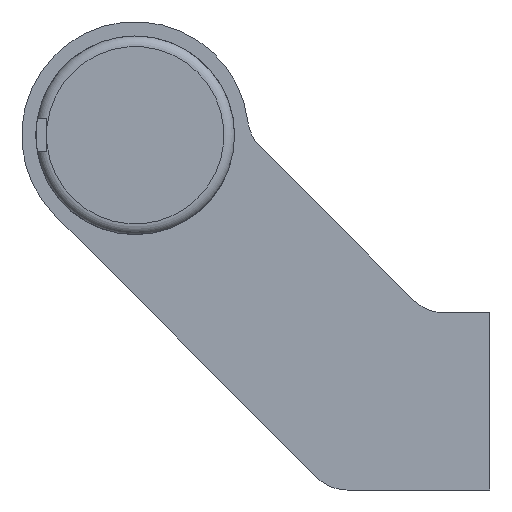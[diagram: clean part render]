
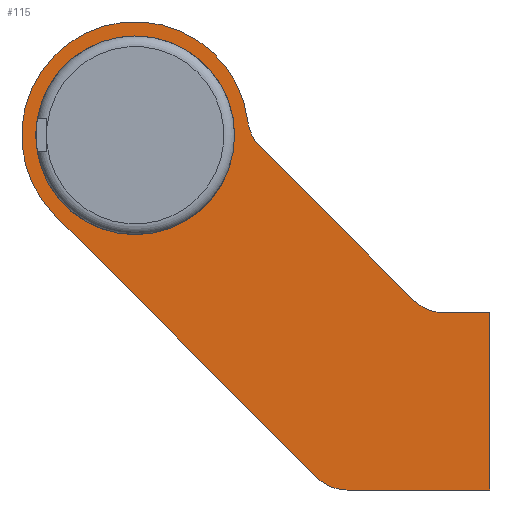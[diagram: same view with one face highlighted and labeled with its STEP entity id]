
A CAD part, left-side view. The second image highlights one B-rep face of the part: STEP entity #115.
In plain terms, the highlighted planar face has unit normal (-1, 0, 0).
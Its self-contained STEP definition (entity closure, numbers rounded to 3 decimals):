
#115 = ADVANCED_FACE( '', ( #215, #216 ), #217, .F. );
#215 = FACE_BOUND( '', #328, .T. );
#216 = FACE_OUTER_BOUND( '', #329, .T. );
#217 = PLANE( '', #330 );
#328 = EDGE_LOOP( '', ( #629 ) );
#329 = EDGE_LOOP( '', ( #630, #631, #632, #633, #634, #635, #636, #637, #638 ) );
#330 = AXIS2_PLACEMENT_3D( '', #639, #640, #641 );
#629 = ORIENTED_EDGE( '', *, *, #755, .T. );
#630 = ORIENTED_EDGE( '', *, *, #741, .F. );
#631 = ORIENTED_EDGE( '', *, *, #719, .F. );
#632 = ORIENTED_EDGE( '', *, *, #715, .F. );
#633 = ORIENTED_EDGE( '', *, *, #723, .F. );
#634 = ORIENTED_EDGE( '', *, *, #726, .F. );
#635 = ORIENTED_EDGE( '', *, *, #729, .T. );
#636 = ORIENTED_EDGE( '', *, *, #732, .F. );
#637 = ORIENTED_EDGE( '', *, *, #735, .T. );
#638 = ORIENTED_EDGE( '', *, *, #738, .F. );
#639 = CARTESIAN_POINT( '', ( -207., 50., 37.5 ) );
#640 = DIRECTION( '', ( 1., 0., 0. ) );
#641 = DIRECTION( '', ( 0., 0., -1. ) );
#715 = EDGE_CURVE( '', #840, #841, #842, .T. );
#719 = EDGE_CURVE( '', #841, #848, #849, .T. );
#723 = EDGE_CURVE( '', #855, #840, #856, .T. );
#726 = EDGE_CURVE( '', #860, #855, #861, .T. );
#729 = EDGE_CURVE( '', #860, #865, #866, .T. );
#732 = EDGE_CURVE( '', #870, #865, #871, .T. );
#735 = EDGE_CURVE( '', #870, #875, #876, .T. );
#738 = EDGE_CURVE( '', #880, #875, #881, .T. );
#741 = EDGE_CURVE( '', #848, #880, #885, .T. );
#755 = EDGE_CURVE( '', #907, #907, #908, .T. );
#840 = VERTEX_POINT( '', #1083 );
#841 = VERTEX_POINT( '', #1084 );
#842 = LINE( '', #1085, #1086 );
#848 = VERTEX_POINT( '', #1095 );
#849 = CIRCLE( '', #1096, 6. );
#855 = VERTEX_POINT( '', #1103 );
#856 = LINE( '', #1104, #1105 );
#860 = VERTEX_POINT( '', #1111 );
#861 = LINE( '', #1112, #1113 );
#865 = VERTEX_POINT( '', #1119 );
#866 = CIRCLE( '', #1120, 6. );
#870 = VERTEX_POINT( '', #1125 );
#871 = LINE( '', #1126, #1127 );
#875 = VERTEX_POINT( '', #1133 );
#876 = CIRCLE( '', #1134, 6. );
#880 = VERTEX_POINT( '', #1139 );
#881 = CIRCLE( '', #1140, 16. );
#885 = LINE( '', #1145, #1146 );
#907 = VERTEX_POINT( '', #1174 );
#908 = CIRCLE( '', #1175, 14. );
#1083 = CARTESIAN_POINT( '', ( -207., 0., -12.5 ) );
#1084 = CARTESIAN_POINT( '', ( -207., 20.142, -12.5 ) );
#1085 = CARTESIAN_POINT( '', ( -207., 0., -12.5 ) );
#1086 = VECTOR( '', #1265, 1000. );
#1095 = CARTESIAN_POINT( '', ( -207., 24.385, -10.743 ) );
#1096 = AXIS2_PLACEMENT_3D( '', #1269, #1270, #1271 );
#1103 = CARTESIAN_POINT( '', ( -207., 0., 12.5 ) );
#1104 = CARTESIAN_POINT( '', ( -207., 0., 12.5 ) );
#1105 = VECTOR( '', #1279, 1000. );
#1111 = CARTESIAN_POINT( '', ( -207., 6.515, 12.5 ) );
#1112 = CARTESIAN_POINT( '', ( -207., 6.515, 12.5 ) );
#1113 = VECTOR( '', #1282, 1000. );
#1119 = CARTESIAN_POINT( '', ( -207., 10.757, 14.257 ) );
#1120 = AXIS2_PLACEMENT_3D( '', #1285, #1286, #1287 );
#1125 = CARTESIAN_POINT( '', ( -207., 32.402, 35.902 ) );
#1126 = CARTESIAN_POINT( '', ( -207., 32.402, 35.902 ) );
#1127 = VECTOR( '', #1292, 1000. );
#1133 = CARTESIAN_POINT( '', ( -207., 34.116, 39.424 ) );
#1134 = AXIS2_PLACEMENT_3D( '', #1295, #1296, #1297 );
#1139 = CARTESIAN_POINT( '', ( -207., 61.314, 26.186 ) );
#1140 = AXIS2_PLACEMENT_3D( '', #1302, #1303, #1304 );
#1145 = CARTESIAN_POINT( '', ( -207., 24.385, -10.743 ) );
#1146 = VECTOR( '', #1309, 1000. );
#1174 = CARTESIAN_POINT( '', ( -207., 50., 23.5 ) );
#1175 = AXIS2_PLACEMENT_3D( '', #1337, #1338, #1339 );
#1265 = DIRECTION( '', ( 0., 1., 0. ) );
#1269 = CARTESIAN_POINT( '', ( -207., 20.142, -6.5 ) );
#1270 = DIRECTION( '', ( 1., 0., 0. ) );
#1271 = DIRECTION( '', ( 0., 0., -1. ) );
#1279 = DIRECTION( '', ( 0., 0., -1. ) );
#1282 = DIRECTION( '', ( 0., -1., 0. ) );
#1285 = CARTESIAN_POINT( '', ( -207., 6.515, 18.5 ) );
#1286 = DIRECTION( '', ( 1., 0., 0. ) );
#1287 = DIRECTION( '', ( 0., 0., -1. ) );
#1292 = DIRECTION( '', ( 0., -0.707, -0.707 ) );
#1295 = CARTESIAN_POINT( '', ( -207., 28.16, 40.145 ) );
#1296 = DIRECTION( '', ( 1., 0., 0. ) );
#1297 = DIRECTION( '', ( 0., 0., -1. ) );
#1302 = CARTESIAN_POINT( '', ( -207., 50., 37.5 ) );
#1303 = DIRECTION( '', ( 1., 0., 0. ) );
#1304 = DIRECTION( '', ( 0., 0., -1. ) );
#1309 = DIRECTION( '', ( 0., 0.707, 0.707 ) );
#1337 = CARTESIAN_POINT( '', ( -207., 50., 37.5 ) );
#1338 = DIRECTION( '', ( 1., 0., 0. ) );
#1339 = DIRECTION( '', ( 0., 0., -1. ) );
